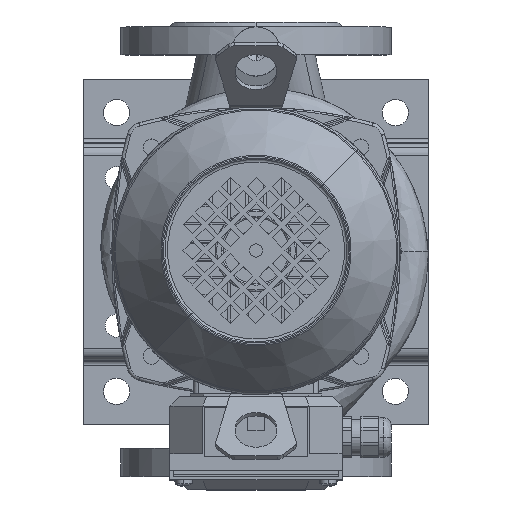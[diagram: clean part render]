
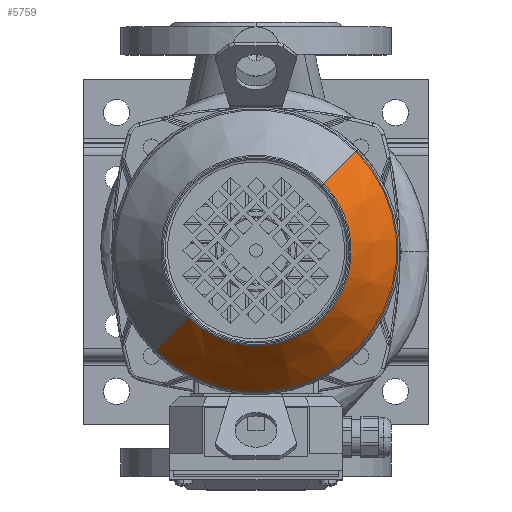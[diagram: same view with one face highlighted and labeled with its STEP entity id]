
A CAD part, top view. The second image highlights one B-rep face of the part: STEP entity #5759.
In plain terms, the highlighted conical face has half-angle 37 degrees and reference radius 58.108 mm.
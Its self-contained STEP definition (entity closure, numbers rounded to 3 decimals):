
#5759=ADVANCED_FACE('NONE',(#13966),#13967,.T.);
#13966=FACE_OUTER_BOUND('',#29770,.T.);
#13967=CONICAL_SURFACE('',#29771,58.108,0.646);
#29770=EDGE_LOOP('',(#46788,#46789,#46790,#46791));
#29771=AXIS2_PLACEMENT_3D('',#46792,#46793,#46794);
#46788=ORIENTED_EDGE('',*,*,#54965,.T.);
#46789=ORIENTED_EDGE('',*,*,#55043,.T.);
#46790=ORIENTED_EDGE('',*,*,#54966,.T.);
#46791=ORIENTED_EDGE('',*,*,#55069,.F.);
#46792=CARTESIAN_POINT('',(0.0,96.403,0.0));
#46793=DIRECTION('',(-0.0,-1.0,-0.0));
#46794=DIRECTION('',(0.0,0.0,-1.0));
#54965=EDGE_CURVE('',#66592,#66595,#66596,.T.);
#54966=EDGE_CURVE('',#66597,#66590,#66598,.T.);
#55043=EDGE_CURVE('NONE',#66595,#66597,#66729,.T.);
#55069=EDGE_CURVE('NONE',#66592,#66590,#66761,.T.);
#66590=VERTEX_POINT('',#89953);
#66592=VERTEX_POINT('NONE',#89955);
#66595=VERTEX_POINT('NONE',#89958);
#66596=LINE('',#89959,#89960);
#66597=VERTEX_POINT('',#89961);
#66598=LINE('',#89962,#89963);
#66729=CIRCLE('',#90456,86.592);
#66761=CIRCLE('',#90686,58.108);
#89953=CARTESIAN_POINT('',(0.,96.403,58.108));
#89955=CARTESIAN_POINT('',(0.,96.403,-58.108));
#89958=CARTESIAN_POINT('',(0.0,58.603,-86.592));
#89959=CARTESIAN_POINT('',(0.,96.403,-58.108));
#89960=VECTOR('',#100681,1.0);
#89961=CARTESIAN_POINT('',(0.,58.603,86.592));
#89962=CARTESIAN_POINT('',(0.,96.403,58.108));
#89963=VECTOR('',#100682,1.0);
#90456=AXIS2_PLACEMENT_3D('',#100809,#100810,#100811);
#90686=AXIS2_PLACEMENT_3D('',#100869,#100870,#100871);
#100681=DIRECTION('',(0.,-0.799,-0.602));
#100682=DIRECTION('',(0.,0.799,-0.602));
#100809=CARTESIAN_POINT('',(0.0,58.603,0.0));
#100810=DIRECTION('',(-0.0,1.0,0.0));
#100811=DIRECTION('',(0.0,0.0,1.0));
#100869=CARTESIAN_POINT('',(0.0,96.403,0.0));
#100870=DIRECTION('',(-0.0,1.0,0.0));
#100871=DIRECTION('',(0.0,0.0,1.0));
